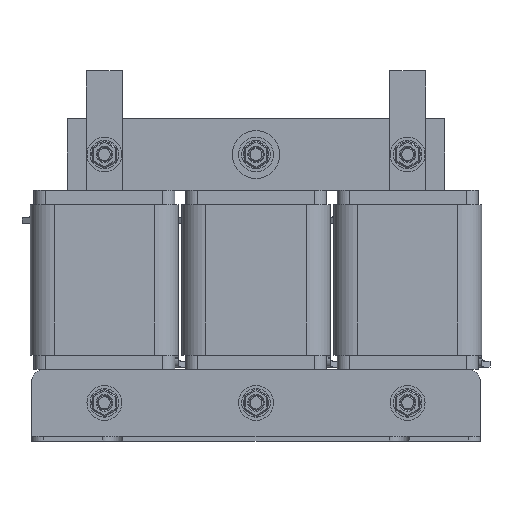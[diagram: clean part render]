
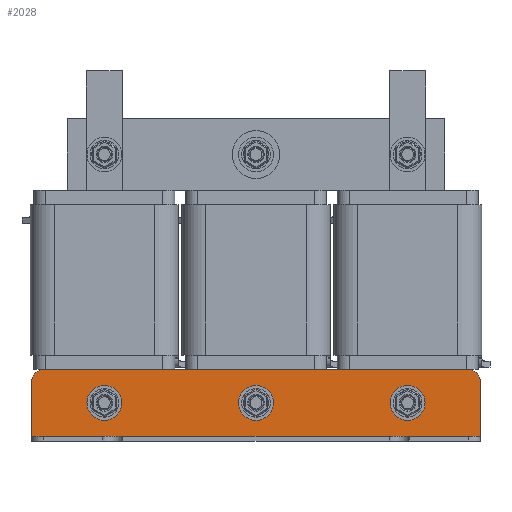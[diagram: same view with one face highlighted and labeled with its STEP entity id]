
A CAD part, front view. The second image highlights one B-rep face of the part: STEP entity #2028.
In plain terms, the highlighted planar face has unit normal (0, -1, 0) as drawn and (0, 1, 0) by its records, which use the part's own axes.
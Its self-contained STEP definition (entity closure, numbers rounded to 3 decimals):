
#2028=ADVANCED_FACE('',(#2269,#2271,#2273,#2275),#2277,.T.);
#2269=FACE_BOUND('',#2270,.T.);
#2270=EDGE_LOOP('',(#3525,#3526,#3527,#3528,#3529,#3530));
#2271=FACE_BOUND('',#2272,.T.);
#2272=EDGE_LOOP('',(#3531));
#2273=FACE_BOUND('',#2274,.T.);
#2274=EDGE_LOOP('',(#3532));
#2275=FACE_BOUND('',#2276,.T.);
#2276=EDGE_LOOP('',(#3533));
#2277=PLANE('',#2278);
#2278=AXIS2_PLACEMENT_3D('',#2279,#2280,#2281);
#2279=CARTESIAN_POINT('',(94.,-13.,2.));
#2280=DIRECTION('',(0.,1.,-0.));
#2281=DIRECTION('',(-1.,0.,0.));
#3525=ORIENTED_EDGE('',*,*,#4261,.F.);
#3526=ORIENTED_EDGE('',*,*,#4262,.F.);
#3527=ORIENTED_EDGE('',*,*,#4263,.T.);
#3528=ORIENTED_EDGE('',*,*,#4264,.T.);
#3529=ORIENTED_EDGE('',*,*,#4265,.F.);
#3530=ORIENTED_EDGE('',*,*,#4266,.F.);
#3531=ORIENTED_EDGE('',*,*,#4267,.T.);
#3532=ORIENTED_EDGE('',*,*,#4268,.T.);
#3533=ORIENTED_EDGE('',*,*,#4269,.T.);
#4261=EDGE_CURVE('',#4652,#4653,#4654,.F.);
#4262=EDGE_CURVE('',#4655,#4652,#4656,.T.);
#4263=EDGE_CURVE('',#4655,#4657,#4658,.T.);
#4264=EDGE_CURVE('',#4657,#4659,#4660,.T.);
#4265=EDGE_CURVE('',#4661,#4659,#4662,.F.);
#4266=EDGE_CURVE('',#4653,#4661,#4663,.T.);
#4267=EDGE_CURVE('',#4664,#4664,#4665,.F.);
#4268=EDGE_CURVE('',#4666,#4666,#4667,.F.);
#4269=EDGE_CURVE('',#4668,#4668,#4669,.F.);
#4652=VERTEX_POINT('',#5328);
#4653=VERTEX_POINT('',#5329);
#4654=CIRCLE('',#5330,5.);
#4655=VERTEX_POINT('',#5334);
#4656=LINE('',#5335,#5336);
#4657=VERTEX_POINT('',#5338);
#4658=LINE('',#5339,#5340);
#4659=VERTEX_POINT('',#5342);
#4660=LINE('',#5343,#5344);
#4661=VERTEX_POINT('',#5346);
#4662=CIRCLE('',#5347,5.);
#4663=LINE('',#5351,#5352);
#4664=VERTEX_POINT('',#5354);
#4665=CIRCLE('',#5355,3.);
#4666=VERTEX_POINT('',#5359);
#4667=CIRCLE('',#5360,3.);
#4668=VERTEX_POINT('',#5364);
#4669=CIRCLE('',#5365,3.);
#5328=CARTESIAN_POINT('',(94.,-13.,25.));
#5329=CARTESIAN_POINT('',(89.,-13.,30.));
#5330=AXIS2_PLACEMENT_3D('',#5331,#5332,#5333);
#5331=CARTESIAN_POINT('',(89.,-13.,25.));
#5332=DIRECTION('',(0.,1.,-0.));
#5333=DIRECTION('',(0.,0.,1.));
#5334=CARTESIAN_POINT('',(94.,-13.,2.));
#5335=CARTESIAN_POINT('',(94.,-13.,2.));
#5336=VECTOR('',#5337,1.);
#5337=DIRECTION('',(0.,0.,1.));
#5338=CARTESIAN_POINT('',(-94.,-13.,2.));
#5339=CARTESIAN_POINT('',(94.,-13.,2.));
#5340=VECTOR('',#5341,1.);
#5341=DIRECTION('',(-1.,0.,0.));
#5342=CARTESIAN_POINT('',(-94.,-13.,25.));
#5343=CARTESIAN_POINT('',(-94.,-13.,2.));
#5344=VECTOR('',#5345,1.);
#5345=DIRECTION('',(0.,0.,1.));
#5346=CARTESIAN_POINT('',(-89.,-13.,30.));
#5347=AXIS2_PLACEMENT_3D('',#5348,#5349,#5350);
#5348=CARTESIAN_POINT('',(-89.,-13.,25.));
#5349=DIRECTION('',(0.,1.,-0.));
#5350=DIRECTION('',(-1.,0.,0.));
#5351=CARTESIAN_POINT('',(89.,-13.,30.));
#5352=VECTOR('',#5353,1.);
#5353=DIRECTION('',(-1.,0.,0.));
#5354=CARTESIAN_POINT('',(60.5,-13.,16.));
#5355=AXIS2_PLACEMENT_3D('',#5356,#5357,#5358);
#5356=CARTESIAN_POINT('',(63.5,-13.,16.));
#5357=DIRECTION('',(0.,1.,-0.));
#5358=DIRECTION('',(-1.,0.,0.));
#5359=CARTESIAN_POINT('',(-3.,-13.,16.));
#5360=AXIS2_PLACEMENT_3D('',#5361,#5362,#5363);
#5361=CARTESIAN_POINT('',(0.,-13.,16.));
#5362=DIRECTION('',(0.,1.,-0.));
#5363=DIRECTION('',(-1.,0.,0.));
#5364=CARTESIAN_POINT('',(-66.5,-13.,16.));
#5365=AXIS2_PLACEMENT_3D('',#5366,#5367,#5368);
#5366=CARTESIAN_POINT('',(-63.5,-13.,16.));
#5367=DIRECTION('',(0.,1.,-0.));
#5368=DIRECTION('',(-1.,0.,0.));
